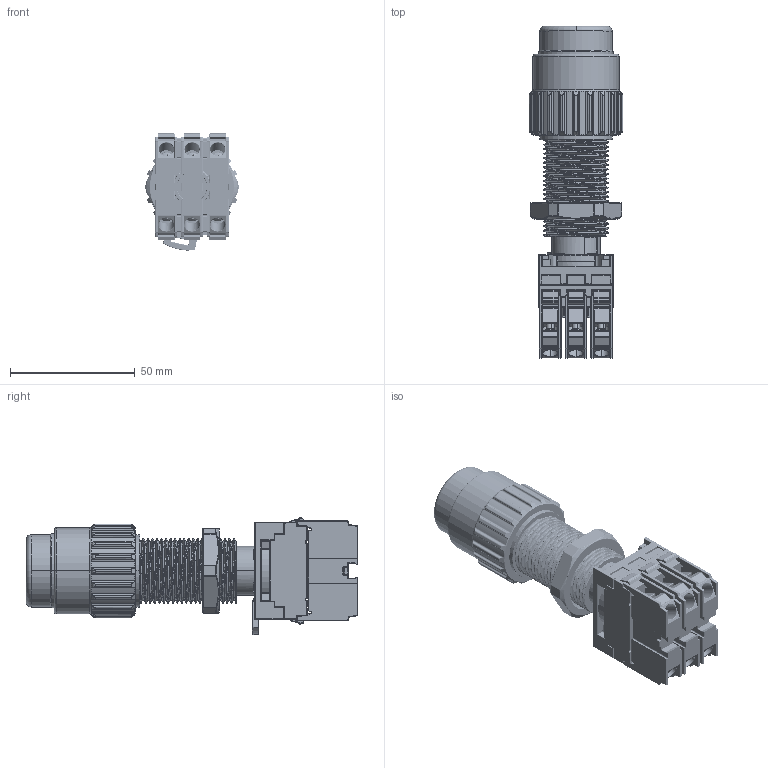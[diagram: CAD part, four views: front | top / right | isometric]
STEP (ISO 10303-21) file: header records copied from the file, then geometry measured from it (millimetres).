
FILE_DESCRIPTION (( 'STEP AP203' ), '1' );
FILE_NAME ('EPCS-LPB-MS-R-XL-24V-NO.STEP', '2025-04-04T18:48:45', ( '' ), ( '' ), 'SwSTEP 2.0', 'SolidWorks 2020', '' );
FILE_SCHEMA (( 'CONFIG_CONTROL_DESIGN' ));
Length unit declared in the file: inch
Products named in the file (14): DIN EN ISO 7045 H M3 x 10 - 4.8 - H.stp; LINGUETA GAIOLA BL.stp; PARTE INTERNA BL NOVO.stp; EPCS-LPB-MS-R-XL-24V-NO; CORPO COOPER.stp; MOLDURA BL NOVA.stp; CONTATO BLOCO BL NOVO.stp; GAIOLA BLOCO BL NOVO.stp; BLOCO BOTAO LUMINOSO NOVO.stp; ANEL 34NPSM.stp; ACOPLA L SG rev.stp; CANOPLAVM1_CPY_RED.stp; 145.stp; AR29 P VIDEO.stp
Assembly tree (20 placements, depth 3):
  EPCS-LPB-MS-R-XL-24V-NO
    BLOCO BOTAO LUMINOSO NOVO.stp
      GAIOLA BLOCO BL NOVO.stp
      LINGUETA GAIOLA BL.stp
      CONTATO BLOCO BL NOVO.stp  x3
      PARTE INTERNA BL NOVO.stp
      DIN EN ISO 7045 H M3 x 10 - 4.8 - H.stp  x6
    CORPO COOPER.stp
    ANEL 34NPSM.stp
    AR29 P VIDEO.stp
    ACOPLA L SG rev.stp
    MOLDURA BL NOVA.stp
    145.stp
    CANOPLAVM1_CPY_RED.stp
Bounding box: 37.5 x 133.1 x 46.94 mm (x, y, z)
Volume: 72362.2 mm3; surface area: 60084.6 mm2
Topology: 27 solids, 27 shells, 4018 faces, 10454 edges, 6367 vertices
Faces by surface type: cylinder 2275, plane 800, torus 471, bspline 195, sphere 154, cone 123
Entity records: 118417 total; most frequent: CARTESIAN_POINT 59452, ORIENTED_EDGE 12646, DIRECTION 11582, EDGE_CURVE 6323, AXIS2_PLACEMENT_3D 4529, VERTEX_POINT 3913, LINE 2524, VECTOR 2524
